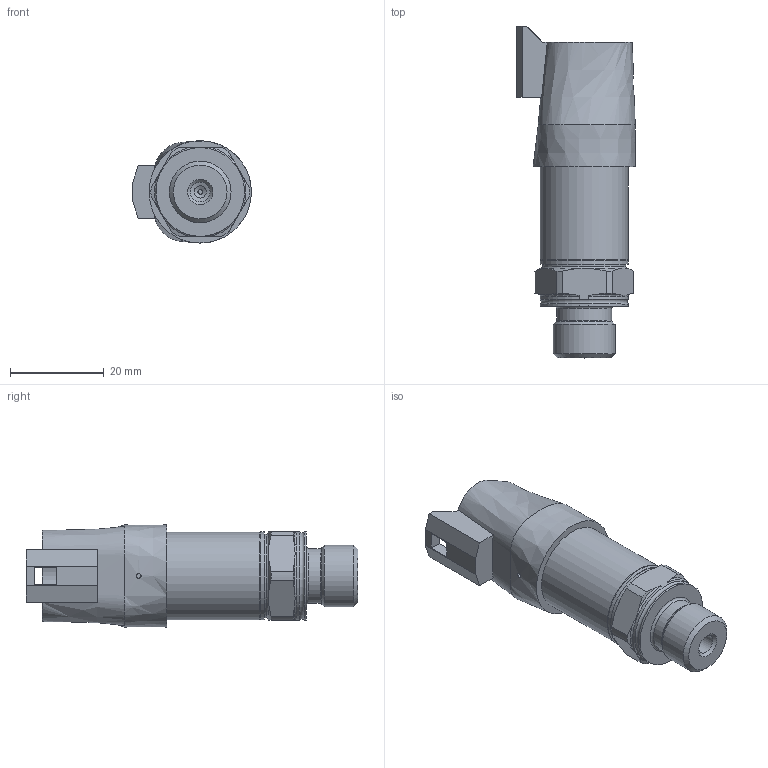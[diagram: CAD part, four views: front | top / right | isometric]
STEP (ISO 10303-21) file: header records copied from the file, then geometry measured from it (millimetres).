
FILE_DESCRIPTION( ( 'STEP AP203' ), '1' );
FILE_NAME( 'p:/temp/worker_177/3780_3836/app_62_02015021008211276809638192d056f_00_00_00_000/STEP/PU5700_2_03.stp', ' ', ( ' ' ), ( ' ' ), 'PSStep 15.0.47', 'PARTsolutions', ' ' );
FILE_SCHEMA( ( 'CONFIG_CONTROL_DESIGN' ) );
Length unit declared in the file: millimetre
Products named in the file (1): _PU5700
Bounding box: 25.3 x 70.8 x 21.77 mm (x, y, z)
Volume: 15235.6 mm3; surface area: 6319.8 mm2
Topology: 1 solids, 1 shells, 82 faces, 212 edges, 138 vertices
Faces by surface type: plane 35, cylinder 21, cone 17, torus 7, bspline 2
Full cylindrical faces by diameter (mm): 1 x3, 2.6 x1, 4.2 x1, 11.7 x1, 13.157 x1, 17.8 x1, 18.72 x1, 18.76 x1
Entity records: 2907 total; most frequent: CARTESIAN_POINT 1030, ORIENTED_EDGE 368, DIRECTION 355, EDGE_CURVE 184, AXIS2_PLACEMENT_3D 140, VERTEX_POINT 133, EDGE_LOOP 113, FACE_OUTER_BOUND 100
